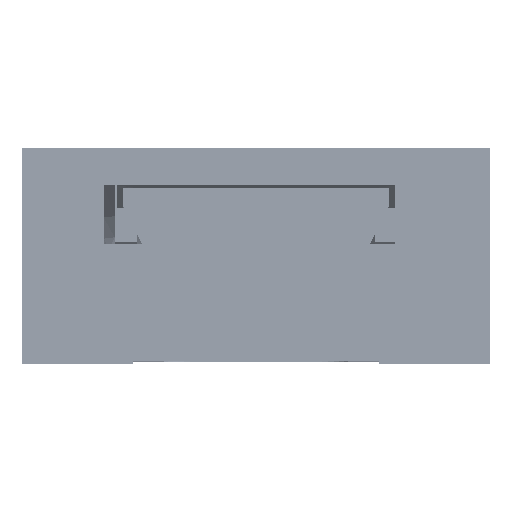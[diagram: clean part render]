
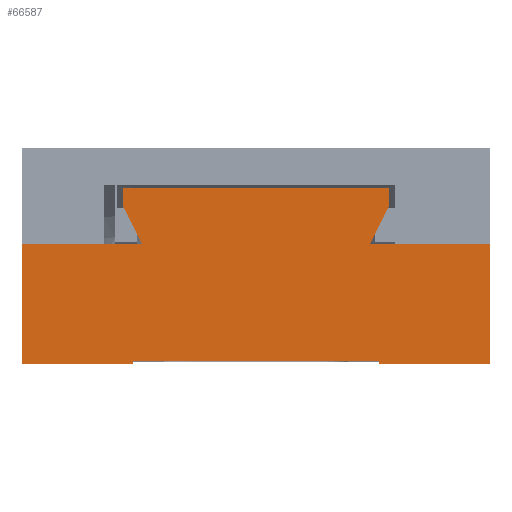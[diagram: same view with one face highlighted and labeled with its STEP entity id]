
A CAD part, top view. The second image highlights one B-rep face of the part: STEP entity #66587.
In plain terms, the highlighted planar face has unit normal (0, 0, 1).
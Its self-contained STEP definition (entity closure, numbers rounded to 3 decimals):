
#1955 = CARTESIAN_POINT ( 'NONE',  ( 18.439, -55.676, 32.5 ) ) ;
#2083 = ORIENTED_EDGE ( 'NONE', *, *, #163850, .T. ) ;
#4454 = LINE ( 'NONE', #135862, #136540 ) ;
#5099 = VERTEX_POINT ( 'NONE', #129776 ) ;
#5304 = DIRECTION ( 'NONE',  ( -1., 0., 0. ) ) ;
#5506 = EDGE_CURVE ( 'NONE', #66812, #10323, #131011, .T. ) ;
#5569 = ORIENTED_EDGE ( 'NONE', *, *, #68285, .T. ) ;
#5692 = DIRECTION ( 'NONE',  ( -1., 0., 0. ) ) ;
#7222 = B_SPLINE_CURVE_WITH_KNOTS ( 'NONE', 3,
 ( #75403, #128157, #62423, #164543, #46939, #139437 ),
 .UNSPECIFIED., .F., .F.,
 ( 4, 1, 1, 4 ),
 ( 0., 0.333, 0.667, 1. ),
 .UNSPECIFIED. ) ;
#7545 = VERTEX_POINT ( 'NONE', #31670 ) ;
#9003 = VERTEX_POINT ( 'NONE', #141045 ) ;
#10212 = ORIENTED_EDGE ( 'NONE', *, *, #99694, .T. ) ;
#10323 = VERTEX_POINT ( 'NONE', #108610 ) ;
#12501 = EDGE_CURVE ( 'NONE', #66812, #158758, #93399, .T. ) ;
#12553 = CARTESIAN_POINT ( 'NONE',  ( -32.501, -80., 32.5 ) ) ;
#12610 = VECTOR ( 'NONE', #36429, 1000. ) ;
#14920 = LINE ( 'NONE', #1955, #45657 ) ;
#17600 = CARTESIAN_POINT ( 'NONE',  ( 17.145, -80., 32.5 ) ) ;
#18274 = ORIENTED_EDGE ( 'NONE', *, *, #139275, .T. ) ;
#18574 = LINE ( 'NONE', #59165, #106447 ) ;
#18722 = VERTEX_POINT ( 'NONE', #158393 ) ;
#20381 = LINE ( 'NONE', #140552, #98979 ) ;
#21769 = CARTESIAN_POINT ( 'NONE',  ( -18.439, -55.676, 32.5 ) ) ;
#22168 = VERTEX_POINT ( 'NONE', #64181 ) ;
#23157 = CARTESIAN_POINT ( 'NONE',  ( 18.164, -58.766, 32.5 ) ) ;
#31670 = CARTESIAN_POINT ( 'NONE',  ( -18.439, -55.676, 32.5 ) ) ;
#33338 = LINE ( 'NONE', #60973, #148411 ) ;
#36429 = DIRECTION ( 'NONE',  ( 1., 0., 0. ) ) ;
#36623 = EDGE_CURVE ( 'NONE', #119127, #137916, #7222, .T. ) ;
#36940 = CARTESIAN_POINT ( 'NONE',  ( 16.735, -61.581, 32.5 ) ) ;
#37282 = LINE ( 'NONE', #60678, #12610 ) ;
#37790 = CARTESIAN_POINT ( 'NONE',  ( -17.145, -80., 32.5 ) ) ;
#40005 = CARTESIAN_POINT ( 'NONE',  ( -18.439, -58.221, 32.5 ) ) ;
#40010 = ORIENTED_EDGE ( 'NONE', *, *, #36623, .T. ) ;
#41304 = CARTESIAN_POINT ( 'NONE',  ( 17.145, -79.619, 32.5 ) ) ;
#45657 = VECTOR ( 'NONE', #130840, 1000. ) ;
#46939 = CARTESIAN_POINT ( 'NONE',  ( -16.134, -62.754, 32.5 ) ) ;
#48205 = CARTESIAN_POINT ( 'NONE',  ( 18.439, -55.676, 32.5 ) ) ;
#49112 = CARTESIAN_POINT ( 'NONE',  ( 15.828, -63.348, 32.5 ) ) ;
#50326 = CARTESIAN_POINT ( 'NONE',  ( 32.499, -80., 32.5 ) ) ;
#50622 = DIRECTION ( 'NONE',  ( 0., 1., 0. ) ) ;
#51271 = PLANE ( 'NONE',  #86883 ) ;
#51950 = DIRECTION ( 'NONE',  ( 1., 0., 0. ) ) ;
#52631 = DIRECTION ( 'NONE',  ( -1., 0., 0. ) ) ;
#54399 = VECTOR ( 'NONE', #127230, 1000. ) ;
#55117 = LINE ( 'NONE', #41304, #156520 ) ;
#58096 = LINE ( 'NONE', #21769, #54399 ) ;
#59165 = CARTESIAN_POINT ( 'NONE',  ( 18.439, -58.221, 32.5 ) ) ;
#59748 = ORIENTED_EDGE ( 'NONE', *, *, #84424, .T. ) ;
#60405 = ORIENTED_EDGE ( 'NONE', *, *, #74091, .T. ) ;
#60678 = CARTESIAN_POINT ( 'NONE',  ( 17.145, -80., 32.5 ) ) ;
#60973 = CARTESIAN_POINT ( 'NONE',  ( 17.145, -79.619, 32.5 ) ) ;
#62423 = CARTESIAN_POINT ( 'NONE',  ( -17.604, -59.874, 32.5 ) ) ;
#62562 = ORIENTED_EDGE ( 'NONE', *, *, #64593, .T. ) ;
#63443 = VERTEX_POINT ( 'NONE', #50326 ) ;
#64181 = CARTESIAN_POINT ( 'NONE',  ( 15.828, -63.348, 32.5 ) ) ;
#64593 = EDGE_CURVE ( 'NONE', #22168, #9003, #92583, .T. ) ;
#65334 = VECTOR ( 'NONE', #76663, 1000. ) ;
#66587 = ADVANCED_FACE ( 'NONE', ( #91038 ), #51271, .T. ) ;
#66812 = VERTEX_POINT ( 'NONE', #92510 ) ;
#68285 = EDGE_CURVE ( 'NONE', #158502, #7545, #14920, .T. ) ;
#70889 = CARTESIAN_POINT ( 'NONE',  ( -15.828, -63.348, 32.5 ) ) ;
#74091 = EDGE_CURVE ( 'NONE', #18722, #161359, #55117, .T. ) ;
#75403 = CARTESIAN_POINT ( 'NONE',  ( -18.439, -58.221, 32.5 ) ) ;
#75416 = ORIENTED_EDGE ( 'NONE', *, *, #160768, .T. ) ;
#75520 = VECTOR ( 'NONE', #52631, 1000. ) ;
#76663 = DIRECTION ( 'NONE',  ( 0., 1., 0. ) ) ;
#77709 = LINE ( 'NONE', #169388, #75520 ) ;
#78852 = EDGE_CURVE ( 'NONE', #5099, #158758, #20381, .T. ) ;
#81708 = VECTOR ( 'NONE', #50622, 1000. ) ;
#84424 = EDGE_CURVE ( 'NONE', #161359, #63443, #37282, .T. ) ;
#86883 = AXIS2_PLACEMENT_3D ( 'NONE', #104028, #156767, #87615 ) ;
#87615 = DIRECTION ( 'NONE',  ( 1., 0., 0. ) ) ;
#91038 = FACE_OUTER_BOUND ( 'NONE', #134722, .T. ) ;
#92510 = CARTESIAN_POINT ( 'NONE',  ( -32.501, -80., 32.5 ) ) ;
#92583 = B_SPLINE_CURVE_WITH_KNOTS ( 'NONE', 3,
 ( #49112, #113116, #36940, #99289, #23157, #126928 ),
 .UNSPECIFIED., .F., .F.,
 ( 4, 1, 1, 4 ),
 ( 0., 0.333, 0.667, 1. ),
 .UNSPECIFIED. ) ;
#93399 = LINE ( 'NONE', #146146, #144685 ) ;
#98979 = VECTOR ( 'NONE', #125015, 1000. ) ;
#99289 = CARTESIAN_POINT ( 'NONE',  ( 17.604, -59.874, 32.5 ) ) ;
#99694 = EDGE_CURVE ( 'NONE', #63443, #153514, #144082, .T. ) ;
#104028 = CARTESIAN_POINT ( 'NONE',  ( -32.501, -80., 32.5 ) ) ;
#104169 = CARTESIAN_POINT ( 'NONE',  ( 32.499, -63.348, 32.5 ) ) ;
#106447 = VECTOR ( 'NONE', #124896, 1000. ) ;
#108610 = CARTESIAN_POINT ( 'NONE',  ( -32.501, -63.348, 32.5 ) ) ;
#112825 = ORIENTED_EDGE ( 'NONE', *, *, #12501, .T. ) ;
#113116 = CARTESIAN_POINT ( 'NONE',  ( 16.134, -62.754, 32.5 ) ) ;
#114907 = ORIENTED_EDGE ( 'NONE', *, *, #170077, .F. ) ;
#116433 = CARTESIAN_POINT ( 'NONE',  ( 32.499, -80., 32.5 ) ) ;
#119127 = VERTEX_POINT ( 'NONE', #40005 ) ;
#120859 = DIRECTION ( 'NONE',  ( 0., -1., 0. ) ) ;
#124184 = EDGE_CURVE ( 'NONE', #153514, #22168, #77709, .T. ) ;
#124896 = DIRECTION ( 'NONE',  ( 0., 1., 0. ) ) ;
#125015 = DIRECTION ( 'NONE',  ( 0., -1., 0. ) ) ;
#126928 = CARTESIAN_POINT ( 'NONE',  ( 18.439, -58.221, 32.5 ) ) ;
#127230 = DIRECTION ( 'NONE',  ( 0., -1., 0. ) ) ;
#127670 = ORIENTED_EDGE ( 'NONE', *, *, #124184, .T. ) ;
#128157 = CARTESIAN_POINT ( 'NONE',  ( -18.164, -58.766, 32.5 ) ) ;
#129776 = CARTESIAN_POINT ( 'NONE',  ( -17.145, -79.619, 32.5 ) ) ;
#130840 = DIRECTION ( 'NONE',  ( -1., 0., 0. ) ) ;
#131011 = LINE ( 'NONE', #12553, #81708 ) ;
#134722 = EDGE_LOOP ( 'NONE', ( #75416, #139119, #112825, #165054, #114907, #60405, #59748, #10212, #127670, #62562, #2083, #5569, #18274, #40010 ) ) ;
#135862 = CARTESIAN_POINT ( 'NONE',  ( -15.828, -63.348, 32.5 ) ) ;
#136540 = VECTOR ( 'NONE', #5304, 1000. ) ;
#137916 = VERTEX_POINT ( 'NONE', #70889 ) ;
#139119 = ORIENTED_EDGE ( 'NONE', *, *, #5506, .F. ) ;
#139275 = EDGE_CURVE ( 'NONE', #7545, #119127, #58096, .T. ) ;
#139437 = CARTESIAN_POINT ( 'NONE',  ( -15.828, -63.348, 32.5 ) ) ;
#140552 = CARTESIAN_POINT ( 'NONE',  ( -17.145, -79.619, 32.5 ) ) ;
#141045 = CARTESIAN_POINT ( 'NONE',  ( 18.439, -58.221, 32.5 ) ) ;
#144082 = LINE ( 'NONE', #116433, #65334 ) ;
#144685 = VECTOR ( 'NONE', #51950, 1000. ) ;
#146146 = CARTESIAN_POINT ( 'NONE',  ( -32.501, -80., 32.5 ) ) ;
#148411 = VECTOR ( 'NONE', #5692, 1000. ) ;
#153514 = VERTEX_POINT ( 'NONE', #104169 ) ;
#156520 = VECTOR ( 'NONE', #120859, 1000. ) ;
#156767 = DIRECTION ( 'NONE',  ( 0., 0., 1. ) ) ;
#158393 = CARTESIAN_POINT ( 'NONE',  ( 17.145, -79.619, 32.5 ) ) ;
#158502 = VERTEX_POINT ( 'NONE', #48205 ) ;
#158758 = VERTEX_POINT ( 'NONE', #37790 ) ;
#160768 = EDGE_CURVE ( 'NONE', #137916, #10323, #4454, .T. ) ;
#161359 = VERTEX_POINT ( 'NONE', #17600 ) ;
#163850 = EDGE_CURVE ( 'NONE', #9003, #158502, #18574, .T. ) ;
#164543 = CARTESIAN_POINT ( 'NONE',  ( -16.735, -61.581, 32.5 ) ) ;
#165054 = ORIENTED_EDGE ( 'NONE', *, *, #78852, .F. ) ;
#169388 = CARTESIAN_POINT ( 'NONE',  ( 32.499, -63.348, 32.5 ) ) ;
#170077 = EDGE_CURVE ( 'NONE', #18722, #5099, #33338, .T. ) ;
